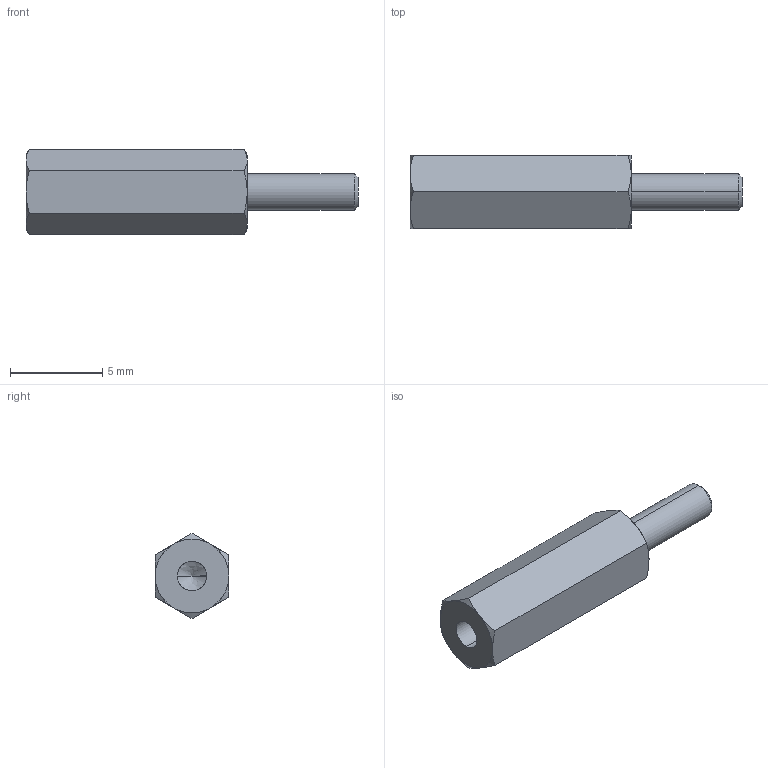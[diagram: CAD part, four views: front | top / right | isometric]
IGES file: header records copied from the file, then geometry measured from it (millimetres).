
Start section: SolidWorks IGES file using analytic representation for surfaces
Global section: file name: C:\Users\render1\Desktop\P0185_IGES\P0185.02-12.igs; native system: SolidWorks 2009; preprocessor: SolidWorks 2009; author: render1; date: 130627.111306; units: millimetre
Bounding box: 18 x 4 x 4.62 mm (x, y, z)
Surface area: 260.1 mm2 (no closed solid volume)
Topology: 0 solids, 0 shells, 29 faces, 292 edges, 290 vertices
Faces by surface type: revolution 20, bspline 9
